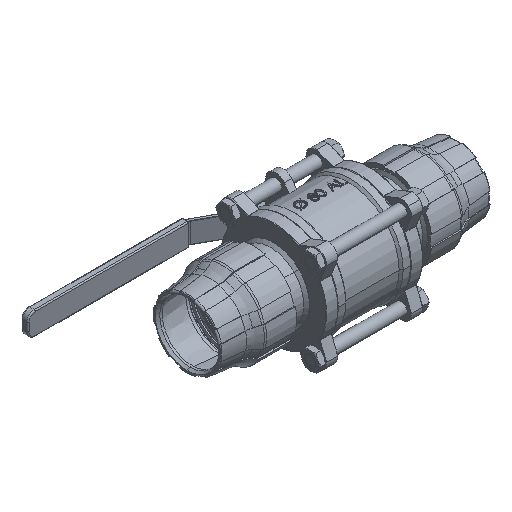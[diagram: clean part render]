
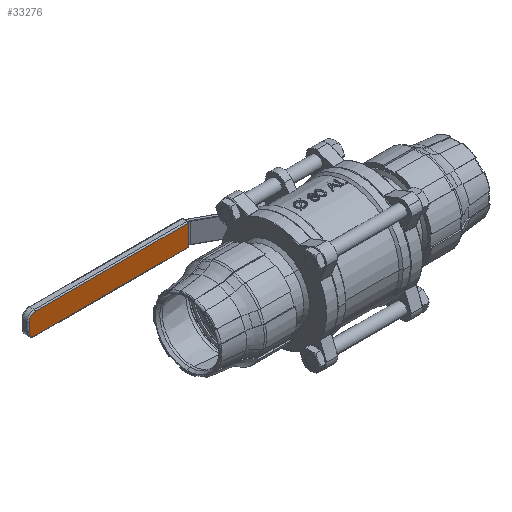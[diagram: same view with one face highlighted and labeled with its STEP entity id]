
A CAD part, isometric view. The second image highlights one B-rep face of the part: STEP entity #33276.
In plain terms, the highlighted planar face has unit normal (0, -1, 0) as drawn and (-1, 0, 0) by its records, which use the part's own axes.
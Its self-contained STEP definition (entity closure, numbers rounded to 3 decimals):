
#711 = FACE_OUTER_BOUND ( 'NONE', #26834, .T. ) ;
#923 = CARTESIAN_POINT ( 'NONE',  ( 116.2, 0., 0. ) ) ;
#2951 = AXIS2_PLACEMENT_3D ( 'NONE', #14494, #34792, #17424 ) ;
#3843 = DIRECTION ( 'NONE',  ( 1., 0., 0. ) ) ;
#6934 = CARTESIAN_POINT ( 'NONE',  ( 116.2, 14.22, 275.542 ) ) ;
#7039 = DIRECTION ( 'NONE',  ( 0., 1., 0. ) ) ;
#7981 = EDGE_CURVE ( 'NONE', #18125, #15894, #31370, .T. ) ;
#8063 = CARTESIAN_POINT ( 'NONE',  ( 116.2, -14.22, 66.602 ) ) ;
#8139 = DIRECTION ( 'NONE',  ( -1., 0., 0. ) ) ;
#8636 = VERTEX_POINT ( 'NONE', #18372 ) ;
#8850 = CARTESIAN_POINT ( 'NONE',  ( 116.2, 14.22, 65.102 ) ) ;
#8963 = ORIENTED_EDGE ( 'NONE', *, *, #15626, .T. ) ;
#9392 = VECTOR ( 'NONE', #23489, 1000. ) ;
#9766 = AXIS2_PLACEMENT_3D ( 'NONE', #25532, #8139, #28451 ) ;
#9950 = CARTESIAN_POINT ( 'NONE',  ( 116.2, 5.72, 284.042 ) ) ;
#9955 = VECTOR ( 'NONE', #7039, 1000. ) ;
#11048 = VECTOR ( 'NONE', #20663, 1000. ) ;
#11968 = EDGE_CURVE ( 'NONE', #37084, #18125, #16194, .T. ) ;
#12306 = ORIENTED_EDGE ( 'NONE', *, *, #35356, .T. ) ;
#13120 = ORIENTED_EDGE ( 'NONE', *, *, #31655, .T. ) ;
#13520 = ORIENTED_EDGE ( 'NONE', *, *, #11968, .T. ) ;
#13873 = CARTESIAN_POINT ( 'NONE',  ( 116.2, -5.72, 284.042 ) ) ;
#14087 = VECTOR ( 'NONE', #24766, 1000. ) ;
#14494 = CARTESIAN_POINT ( 'NONE',  ( 116.2, -5.72, 275.542 ) ) ;
#15556 = AXIS2_PLACEMENT_3D ( 'NONE', #923, #3843, #24103 ) ;
#15626 = EDGE_CURVE ( 'NONE', #28272, #8636, #17686, .T. ) ;
#15894 = VERTEX_POINT ( 'NONE', #29747 ) ;
#16194 = LINE ( 'NONE', #20577, #9392 ) ;
#16438 = CIRCLE ( 'NONE', #9766, 8.5 ) ;
#17424 = DIRECTION ( 'NONE',  ( 0., 0., -1. ) ) ;
#17686 = LINE ( 'NONE', #9950, #9955 ) ;
#18125 = VERTEX_POINT ( 'NONE', #8063 ) ;
#18372 = CARTESIAN_POINT ( 'NONE',  ( 116.2, 5.72, 284.042 ) ) ;
#18805 = LINE ( 'NONE', #8850, #11048 ) ;
#20577 = CARTESIAN_POINT ( 'NONE',  ( 116.2, -15.72, 66.602 ) ) ;
#20663 = DIRECTION ( 'NONE',  ( 0., 0., -1. ) ) ;
#21170 = PLANE ( 'NONE',  #15556 ) ;
#23489 = DIRECTION ( 'NONE',  ( 0., -1., 0. ) ) ;
#24103 = DIRECTION ( 'NONE',  ( 0., 0., -1. ) ) ;
#24351 = ORIENTED_EDGE ( 'NONE', *, *, #7981, .T. ) ;
#24766 = DIRECTION ( 'NONE',  ( 0., 0., 1. ) ) ;
#25532 = CARTESIAN_POINT ( 'NONE',  ( 116.2, 5.72, 275.542 ) ) ;
#26834 = EDGE_LOOP ( 'NONE', ( #24351, #13120, #8963, #12306, #34744, #13520 ) ) ;
#27961 = EDGE_CURVE ( 'NONE', #36280, #37084, #18805, .T. ) ;
#28272 = VERTEX_POINT ( 'NONE', #13873 ) ;
#28451 = DIRECTION ( 'NONE',  ( 0., 0., -1. ) ) ;
#29747 = CARTESIAN_POINT ( 'NONE',  ( 116.2, -14.22, 275.542 ) ) ;
#31370 = LINE ( 'NONE', #33161, #14087 ) ;
#31655 = EDGE_CURVE ( 'NONE', #15894, #28272, #36569, .T. ) ;
#33161 = CARTESIAN_POINT ( 'NONE',  ( 116.2, -14.22, 275.542 ) ) ;
#33276 = ADVANCED_FACE ( 'NONE', ( #711 ), #21170, .F. ) ;
#34744 = ORIENTED_EDGE ( 'NONE', *, *, #27961, .T. ) ;
#34792 = DIRECTION ( 'NONE',  ( -1., 0., 0. ) ) ;
#35356 = EDGE_CURVE ( 'NONE', #8636, #36280, #16438, .T. ) ;
#36280 = VERTEX_POINT ( 'NONE', #6934 ) ;
#36569 = CIRCLE ( 'NONE', #2951, 8.5 ) ;
#37084 = VERTEX_POINT ( 'NONE', #37297 ) ;
#37297 = CARTESIAN_POINT ( 'NONE',  ( 116.2, 14.22, 66.602 ) ) ;
